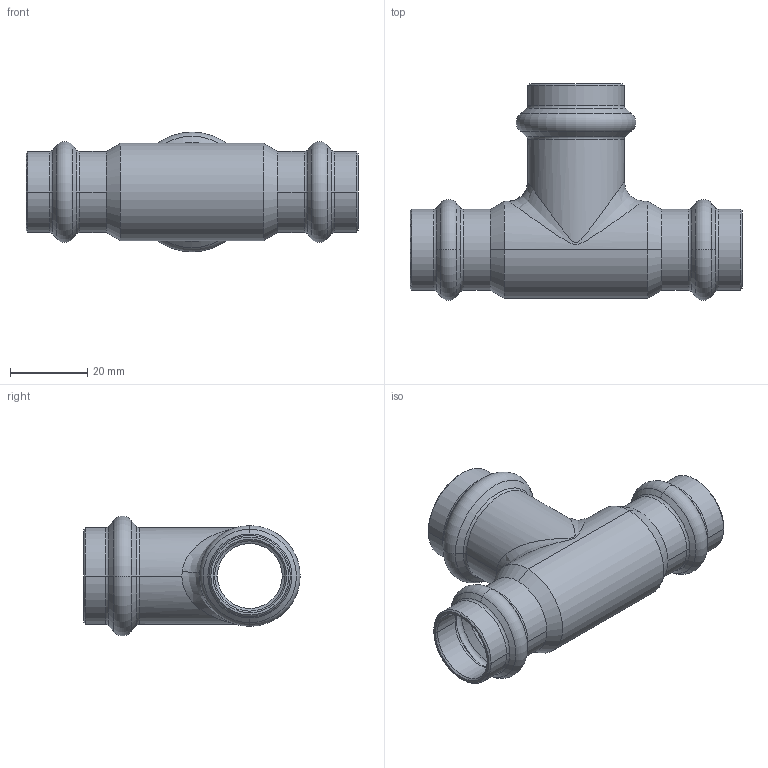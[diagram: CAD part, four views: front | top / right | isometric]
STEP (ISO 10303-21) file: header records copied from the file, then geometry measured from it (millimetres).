
FILE_DESCRIPTION (( 'STEP AP203' ), '1' );
FILE_NAME ('SP5130 Ø18-22-18.STEP', '2017-04-24T12:50:23', ( '' ), ( '' ), 'SwSTEP 2.0', 'SolidWorks 2016', '' );
FILE_SCHEMA (( 'CONFIG_CONTROL_DESIGN' ));
Length unit declared in the file: millimetre
Products named in the file (1): SP5130 Ø18-22-18
Bounding box: 86 x 56.05 x 31 mm (x, y, z)
Volume: 15775.8 mm3; surface area: 17299.6 mm2
Topology: 1 solids, 1 shells, 127 faces, 288 edges, 164 vertices
Faces by surface type: cone 48, torus 40, cylinder 31, bspline 4, plane 4
Entity records: 4964 total; most frequent: CARTESIAN_POINT 1943, DIRECTION 714, ORIENTED_EDGE 576, AXIS2_PLACEMENT_3D 318, EDGE_CURVE 288, CIRCLE 194, VERTEX_POINT 164, EDGE_LOOP 132
